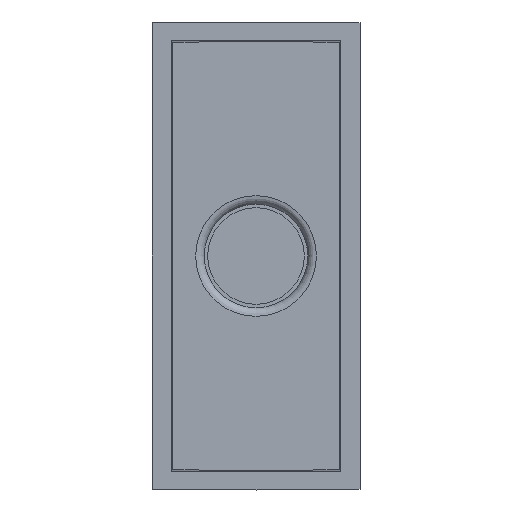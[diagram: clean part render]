
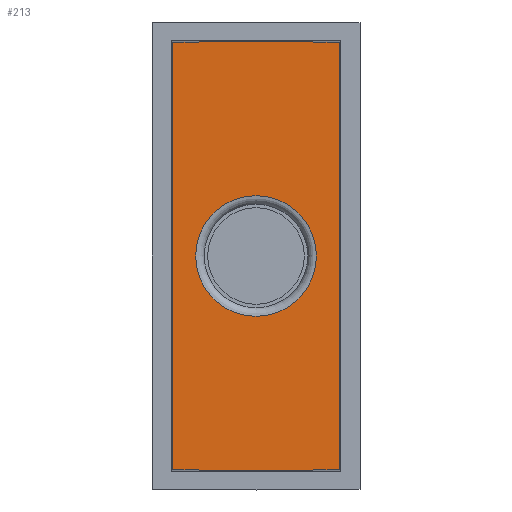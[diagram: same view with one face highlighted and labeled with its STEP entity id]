
A CAD part, front view. The second image highlights one B-rep face of the part: STEP entity #213.
In plain terms, the highlighted planar face has unit normal (0, -1, 0).
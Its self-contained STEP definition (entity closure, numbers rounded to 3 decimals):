
#128=CIRCLE('',#2150,1.75);
#213=ADVANCED_FACE('',(#441,#364),#306,.T.);
#306=PLANE('',#2151);
#364=FACE_BOUND('',#569,.T.);
#441=FACE_OUTER_BOUND('',#568,.T.);
#568=EDGE_LOOP('',(#1015,#1016,#1017,#1018,#1019,#1020,#1021,#1022));
#569=EDGE_LOOP('',(#1023));
#1015=ORIENTED_EDGE('',*,*,#1548,.F.);
#1016=ORIENTED_EDGE('',*,*,#1549,.F.);
#1017=ORIENTED_EDGE('',*,*,#1550,.F.);
#1018=ORIENTED_EDGE('',*,*,#1551,.F.);
#1019=ORIENTED_EDGE('',*,*,#1552,.F.);
#1020=ORIENTED_EDGE('',*,*,#1553,.F.);
#1021=ORIENTED_EDGE('',*,*,#1554,.F.);
#1022=ORIENTED_EDGE('',*,*,#1541,.F.);
#1023=ORIENTED_EDGE('',*,*,#1555,.T.);
#1299=VERTEX_POINT('',#3152);
#1300=VERTEX_POINT('',#3153);
#1305=VERTEX_POINT('',#3165);
#1306=VERTEX_POINT('',#3169);
#1307=VERTEX_POINT('',#3171);
#1308=VERTEX_POINT('',#3173);
#1309=VERTEX_POINT('',#3175);
#1310=VERTEX_POINT('',#3177);
#1311=VERTEX_POINT('',#3180);
#1541=EDGE_CURVE('',#1299,#1300,#1782,.T.);
#1548=EDGE_CURVE('',#1305,#1299,#1789,.T.);
#1549=EDGE_CURVE('',#1306,#1305,#1790,.T.);
#1550=EDGE_CURVE('',#1307,#1306,#1791,.T.);
#1551=EDGE_CURVE('',#1308,#1307,#1792,.T.);
#1552=EDGE_CURVE('',#1309,#1308,#1793,.T.);
#1553=EDGE_CURVE('',#1310,#1309,#1794,.T.);
#1554=EDGE_CURVE('',#1300,#1310,#1795,.T.);
#1555=EDGE_CURVE('',#1311,#1311,#128,.T.);
#1782=LINE('',#3151,#2018);
#1789=LINE('',#3166,#2025);
#1790=LINE('',#3168,#2026);
#1791=LINE('',#3170,#2027);
#1792=LINE('',#3172,#2028);
#1793=LINE('',#3174,#2029);
#1794=LINE('',#3176,#2030);
#1795=LINE('',#3178,#2031);
#2018=VECTOR('',#2563,1.);
#2025=VECTOR('',#2572,1.);
#2026=VECTOR('',#2575,1.);
#2027=VECTOR('',#2576,1.);
#2028=VECTOR('',#2577,1.);
#2029=VECTOR('',#2578,1.);
#2030=VECTOR('',#2579,1.);
#2031=VECTOR('',#2580,1.);
#2150=AXIS2_PLACEMENT_3D('',#3179,#2581,#2582);
#2151=AXIS2_PLACEMENT_3D('',#3181,#2583,#2584);
#2563=DIRECTION('',(1.,0.,0.));
#2572=DIRECTION('',(1.,0.,0.017));
#2575=DIRECTION('',(0.,0.,1.));
#2576=DIRECTION('',(-1.,0.,0.017));
#2577=DIRECTION('',(-1.,0.,0.));
#2578=DIRECTION('',(-1.,0.,-0.017));
#2579=DIRECTION('',(0.,0.,-1.));
#2580=DIRECTION('',(1.,0.,-0.017));
#2581=DIRECTION('',(0.,1.,0.));
#2582=DIRECTION('',(0.,0.,1.));
#2583=DIRECTION('',(0.,-1.,0.));
#2584=DIRECTION('',(-1.,0.,0.));
#3151=CARTESIAN_POINT('',(-1.558,0.05,23.206));
#3152=CARTESIAN_POINT('',(-1.558,0.05,23.206));
#3153=CARTESIAN_POINT('',(1.558,0.05,23.206));
#3165=CARTESIAN_POINT('',(-2.412,0.05,23.191));
#3166=CARTESIAN_POINT('',(-2.412,0.05,23.191));
#3168=CARTESIAN_POINT('',(-2.412,0.05,10.809));
#3169=CARTESIAN_POINT('',(-2.412,0.05,10.809));
#3170=CARTESIAN_POINT('',(-1.558,0.05,10.794));
#3171=CARTESIAN_POINT('',(-1.558,0.05,10.794));
#3172=CARTESIAN_POINT('',(1.558,0.05,10.794));
#3173=CARTESIAN_POINT('',(1.558,0.05,10.794));
#3174=CARTESIAN_POINT('',(2.412,0.05,10.809));
#3175=CARTESIAN_POINT('',(2.412,0.05,10.809));
#3176=CARTESIAN_POINT('',(2.412,0.05,23.191));
#3177=CARTESIAN_POINT('',(2.412,0.05,23.191));
#3178=CARTESIAN_POINT('',(1.558,0.05,23.206));
#3179=CARTESIAN_POINT('',(0.,0.05,17.));
#3180=CARTESIAN_POINT('',(0.,0.05,18.75));
#3181=CARTESIAN_POINT('',(0.,0.05,17.));
